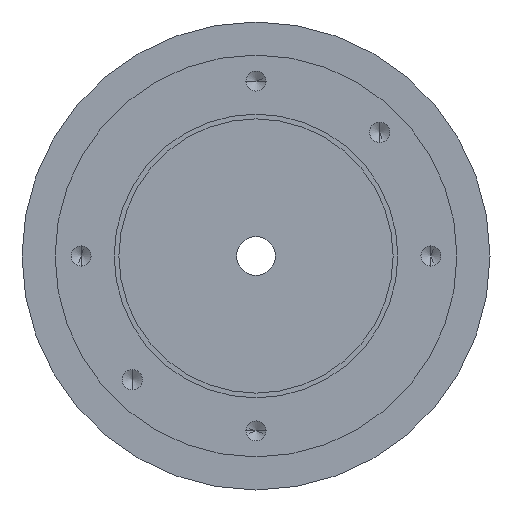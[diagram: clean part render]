
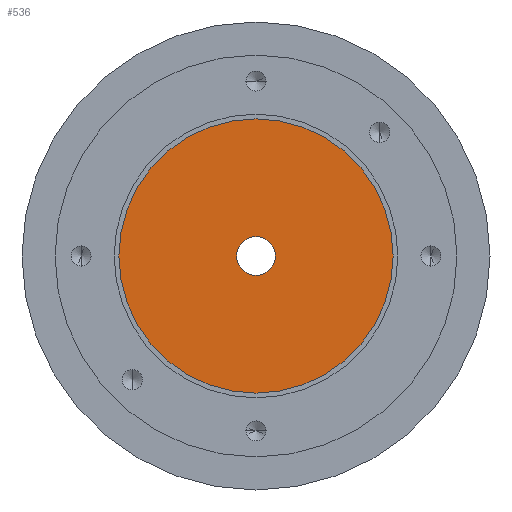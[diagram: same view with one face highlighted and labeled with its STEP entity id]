
A CAD part, left-side view. The second image highlights one B-rep face of the part: STEP entity #536.
In plain terms, the highlighted planar face has unit normal (-1, 0, 0).
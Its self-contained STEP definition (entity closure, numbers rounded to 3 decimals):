
#272 = VERTEX_POINT ( 'NONE', #1472 ) ;
#274 = EDGE_CURVE ( 'NONE', #272, #275, #1471, .T. ) ;
#275 = VERTEX_POINT ( 'NONE', #1466 ) ;
#536 = ADVANCED_FACE ( 'NONE', ( #2036, #2031 ), #2030, .F. ) ;
#537 = EDGE_LOOP ( 'NONE', ( #538, #539 ) ) ;
#538 = ORIENTED_EDGE ( 'NONE', *, *, #648, .T. ) ;
#539 = ORIENTED_EDGE ( 'NONE', *, *, #540, .T. ) ;
#540 = EDGE_CURVE ( 'NONE', #646, #664, #1912, .T. ) ;
#541 = EDGE_LOOP ( 'NONE', ( #542, #544 ) ) ;
#542 = ORIENTED_EDGE ( 'NONE', *, *, #543, .F. ) ;
#543 = EDGE_CURVE ( 'NONE', #275, #272, #1908, .T. ) ;
#544 = ORIENTED_EDGE ( 'NONE', *, *, #274, .F. ) ;
#646 = VERTEX_POINT ( 'NONE', #2178 ) ;
#648 = EDGE_CURVE ( 'NONE', #664, #646, #2177, .T. ) ;
#664 = VERTEX_POINT ( 'NONE', #2063 ) ;
#1466 = CARTESIAN_POINT ( 'NONE',  ( 0., 0., 8.25 ) ) ;
#1467 = DIRECTION ( 'NONE',  ( 0., 0., 1. ) ) ;
#1468 = DIRECTION ( 'NONE',  ( -1., 0., 0. ) ) ;
#1469 = CARTESIAN_POINT ( 'NONE',  ( 0., 0., 0. ) ) ;
#1470 = AXIS2_PLACEMENT_3D ( 'NONE', #1469, #1468, #1467 ) ;
#1471 = CIRCLE ( 'NONE', #1470, 8.25 ) ;
#1472 = CARTESIAN_POINT ( 'NONE',  ( 0., 0., -8.25 ) ) ;
#1844 = DIRECTION ( 'NONE',  ( 0., 0., -1. ) ) ;
#1845 = DIRECTION ( 'NONE',  ( 1., 0., 0. ) ) ;
#1846 = CARTESIAN_POINT ( 'NONE',  ( 0., 0., 0. ) ) ;
#1847 = AXIS2_PLACEMENT_3D ( 'NONE', #1846, #1845, #1844 ) ;
#1848 = CARTESIAN_POINT ( 'NONE',  ( 0., 0., 0. ) ) ;
#1908 = CIRCLE ( 'NONE', #1921, 8.25 ) ;
#1909 = DIRECTION ( 'NONE',  ( 0., 0., 1. ) ) ;
#1910 = DIRECTION ( 'NONE',  ( -1., 0., 0. ) ) ;
#1911 = AXIS2_PLACEMENT_3D ( 'NONE', #1848, #1910, #1909 ) ;
#1912 = CIRCLE ( 'NONE', #1911, 58. ) ;
#1913 = CARTESIAN_POINT ( 'NONE',  ( 0., 0., 0. ) ) ;
#1919 = DIRECTION ( 'NONE',  ( 0., 0., 1. ) ) ;
#1920 = DIRECTION ( 'NONE',  ( -1., 0., 0. ) ) ;
#1921 = AXIS2_PLACEMENT_3D ( 'NONE', #1913, #1920, #1919 ) ;
#2030 = PLANE ( 'NONE',  #1847 ) ;
#2031 = FACE_BOUND ( 'NONE', #541, .T. ) ;
#2036 = FACE_OUTER_BOUND ( 'NONE', #537, .T. ) ;
#2063 = CARTESIAN_POINT ( 'NONE',  ( 0., 0., 58. ) ) ;
#2123 = DIRECTION ( 'NONE',  ( 0., 0., 1. ) ) ;
#2124 = DIRECTION ( 'NONE',  ( -1., 0., 0. ) ) ;
#2175 = CARTESIAN_POINT ( 'NONE',  ( 0., 0., 0. ) ) ;
#2176 = AXIS2_PLACEMENT_3D ( 'NONE', #2175, #2124, #2123 ) ;
#2177 = CIRCLE ( 'NONE', #2176, 58. ) ;
#2178 = CARTESIAN_POINT ( 'NONE',  ( 0., 0., -58. ) ) ;
